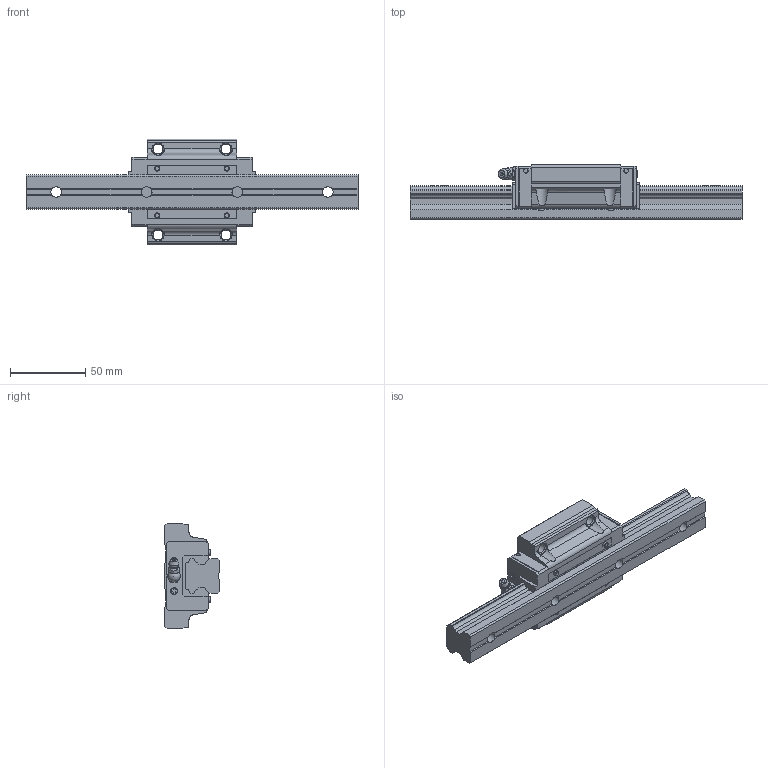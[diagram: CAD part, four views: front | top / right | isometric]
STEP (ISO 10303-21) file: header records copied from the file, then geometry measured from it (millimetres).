
FILE_DESCRIPTION(/* description */ ('STEP AP203'),/* implementation_level */ '2;1');
FILE_NAME(/* name */ 'HSR25M1A1SS-220L_G20_0_B-M6F_68-05_0_0_0_1',/* time_stamp */ '2024-05-23T06:09:13+02:00',/* author */ ('License CC BY-ND 4.0'),/* organization */ ('CADENAS'),/* preprocessor_version */ 'ST-DEVELOPER v19.3',/* originating_system */ 'PARTsolutions',/* authorisation */ ' ');
FILE_SCHEMA (('CONFIG_CONTROL_DESIGN'));
Length unit declared in the file: millimetre
Products named in the file (4): HSR25M1A1SS-220L_G20_0_B-M6F_68-05_0_0_0_1; HSR25M1A122020 Rail; HSR25M1ASSB-M6F1 Slider; hsr_ftht_B-M6F_grease_nipple_joint
Assembly tree (3 placements, depth 2):
  HSR25M1A1SS-220L_G20_0_B-M6F_68-05_0_0_0_1
    HSR25M1A122020 Rail
    HSR25M1ASSB-M6F1 Slider
    hsr_ftht_B-M6F_grease_nipple_joint
Bounding box: 220 x 36 x 70 mm (x, y, z)
Volume: 196399.3 mm3; surface area: 45723.2 mm2
Topology: 3 solids, 3 shells, 308 faces, 818 edges, 531 vertices
Faces by surface type: plane 222, cylinder 52, cone 21, torus 10, sphere 3
Full cylindrical faces by diameter (mm): 3 x4, 3.518 x4, 4.5 x4, 4.917 x2, 6 x1, 6.647 x4, 7 x4, 8 x1, 11 x4
Entity records: 9277 total; most frequent: CARTESIAN_POINT 1731, DIRECTION 1512, ORIENTED_EDGE 1492, EDGE_CURVE 746, LINE 532, VECTOR 532, VERTEX_POINT 517, AXIS2_PLACEMENT_3D 490
